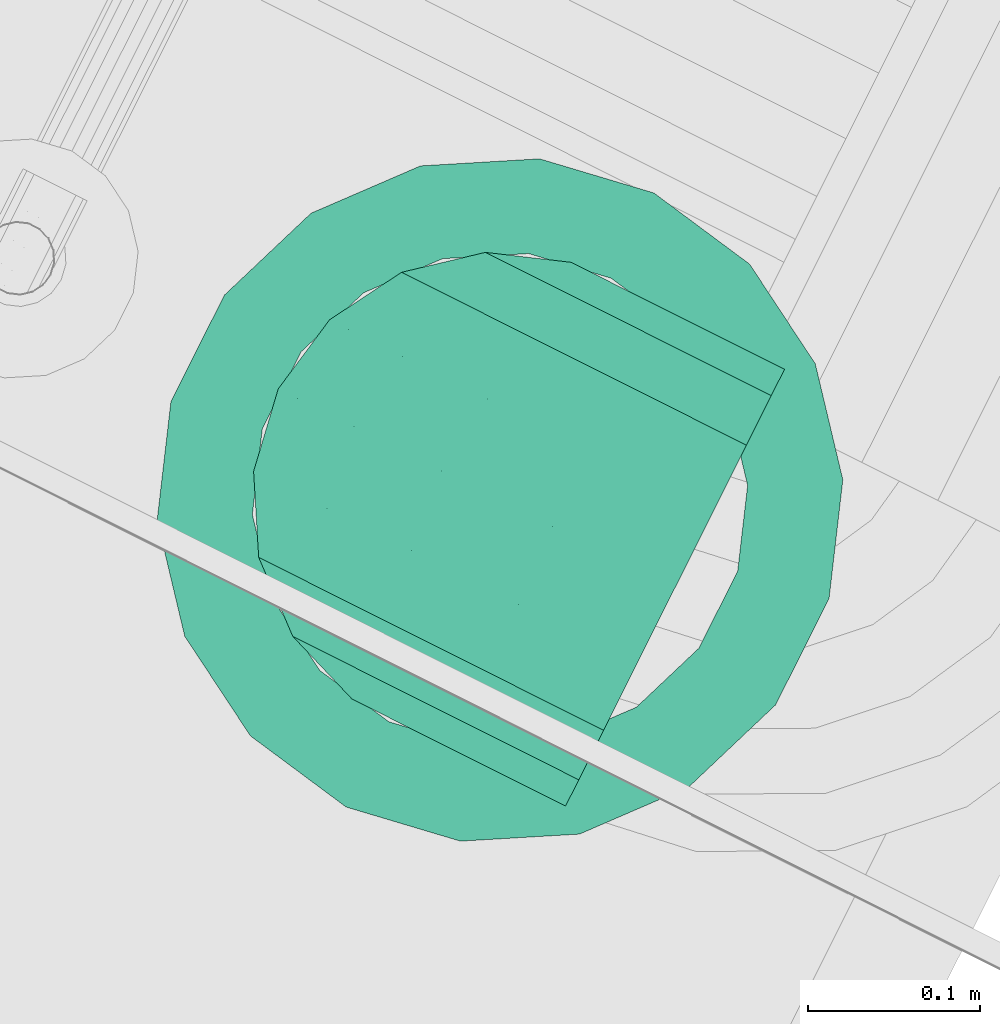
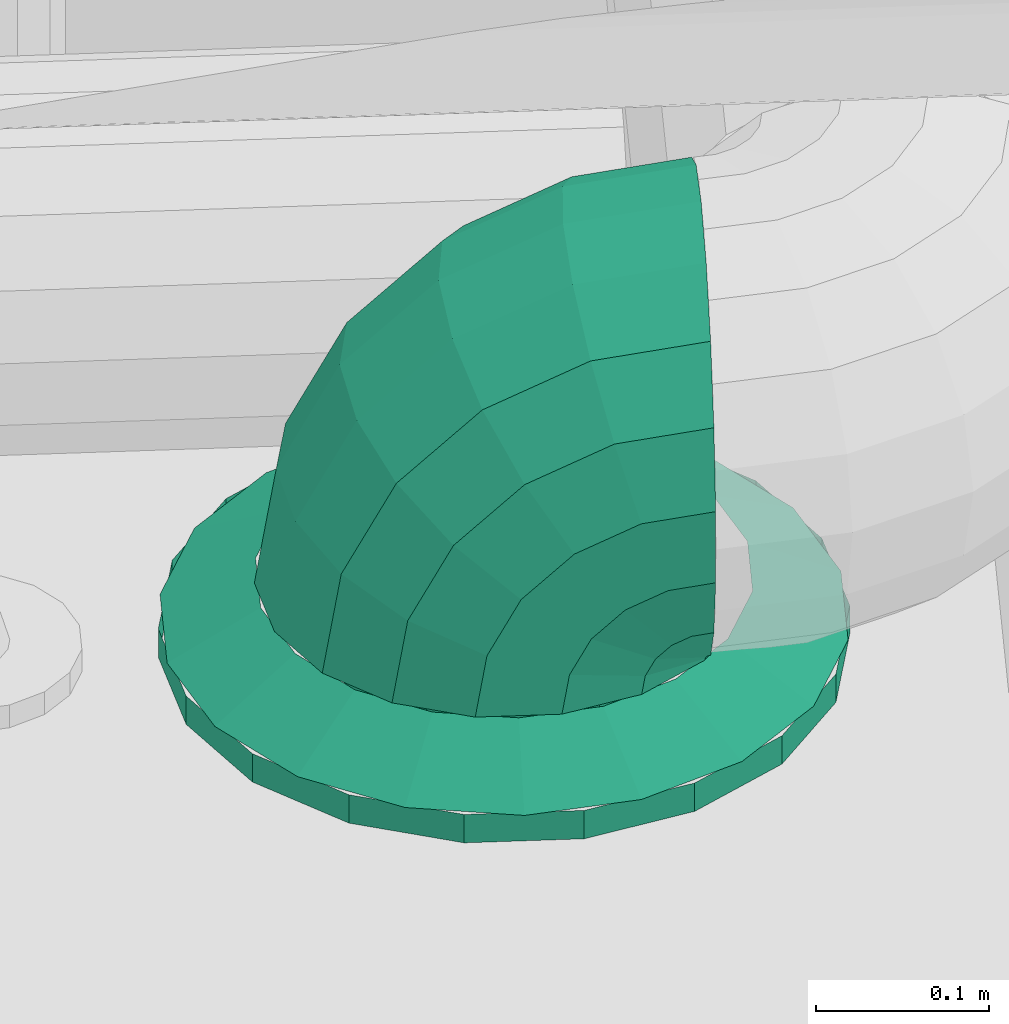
# One storey, part 92 of 206: 1 flow fitting, 1 flow segment.
"""IFC2X3 building model written with IfcOpenShell, lengths in metres."""

from ifc_helpers import new_model, si_unit, derived_unit, direction, frame, origin, place, context, subcontext, project, spatial, face_set, surface_model, source, transform, mapped, material, type_object, type_shapes, element, save


model = new_model("IFC2X3")

# Units and contexts
model_context = context("Model", 3, precision=5.2338327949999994e-05, world=origin(), true_north=direction((0.0, 1.0)))
body_context = subcontext(model_context, "Body", "Model", "MODEL_VIEW")
ifc_project = project(units=[si_unit("LENGTHUNIT", "METRE"), si_unit("AREAUNIT", "SQUARE_METRE"), si_unit("VOLUMEUNIT", "CUBIC_METRE"), si_unit("MASSUNIT", "GRAM", prefix="KILO"), si_unit("PLANEANGLEUNIT", "RADIAN"), derived_unit("THERMALTRANSMITTANCEUNIT", [(si_unit("MASSUNIT", "GRAM", prefix="KILO"), 1), (si_unit("THERMODYNAMICTEMPERATUREUNIT", "KELVIN"), -1), (si_unit("TIMEUNIT", "SECOND"), -3)])], contexts=[model_context])

# Site, building, storey
site_placement = place(None, frame((0.0, 0.0, 0.0), z_axis=(0.0, 0.0, 1.0), x_axis=(0.8939966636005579, -0.4480736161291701, 0.0)))
site = spatial("IfcSite", under=ifc_project, at=site_placement, Name="Default", CompositionType="ELEMENT")
building_placement = place(site_placement, origin())
building = spatial("IfcBuilding", under=site, at=building_placement, CompositionType="ELEMENT")
storey_placement = place(building_placement, origin())
storey = spatial("IfcBuildingStorey", under=building, at=storey_placement, Name="Erdgeschoss", CompositionType="ELEMENT", Elevation=0.0)

# Flow fitting
ifc_material = material(Name="IfcSurfaceStyle #9317")
distribution_element_type_1 = type_object("IfcDistributionElementType", Name="Flansch 293605:Flansch 293605", material=ifc_material)
shared_shape_1 = source(origin(), body_context, "Body", "SurfaceModel", [
    surface_model("IfcFaceBasedSurfaceModel", [(31.011872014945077, 8.473570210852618, 2.15), (31.005841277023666, 8.507772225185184, 2.15), (31.005841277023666, 8.507772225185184, 2.170000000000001), (31.011872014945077, 8.473570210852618, 2.1699999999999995), (30.988476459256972, 8.537848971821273, 2.15), (30.988476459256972, 8.537848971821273, 2.170000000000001), (30.961872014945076, 8.560172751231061, 2.15), (30.961872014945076, 8.560172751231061, 2.170000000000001), (30.929236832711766, 8.572050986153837, 2.15), (30.929236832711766, 8.572050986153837, 2.170000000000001), (30.89450719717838, 8.572050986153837, 2.15), (30.89450719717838, 8.572050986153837, 2.170000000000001), (30.86187201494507, 8.56017275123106, 2.15), (30.86187201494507, 8.56017275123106, 2.170000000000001), (30.835267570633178, 8.53784897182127, 2.15), (30.835267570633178, 8.53784897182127, 2.170000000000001), (30.817902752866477, 8.507772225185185, 2.15), (30.817902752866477, 8.507772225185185, 2.170000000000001), (30.811872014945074, 8.473570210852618, 2.15), (30.811872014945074, 8.473570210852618, 2.170000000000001), (30.81790275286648, 8.43936819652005, 2.15), (30.81790275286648, 8.43936819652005, 2.170000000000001), (30.835267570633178, 8.409291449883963, 2.15), (30.835267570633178, 8.409291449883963, 2.170000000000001), (30.86187201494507, 8.386967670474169, 2.15), (30.86187201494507, 8.386967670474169, 2.170000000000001), (30.89450719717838, 8.375089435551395, 2.15), (30.89450719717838, 8.375089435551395, 2.170000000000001), (30.92923683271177, 8.375089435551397, 2.15), (30.92923683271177, 8.375089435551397, 2.170000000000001), (30.96187201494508, 8.386967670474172, 2.15), (30.96187201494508, 8.386967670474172, 2.170000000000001), (30.98847645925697, 8.409291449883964, 2.15), (30.98847645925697, 8.409291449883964, 2.170000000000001), (31.005841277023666, 8.43936819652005, 2.15), (31.005841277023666, 8.43936819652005, 2.170000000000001), (30.91187201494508, 8.473570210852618, 2.170000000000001), (30.911872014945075, 8.421070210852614, 2.1700000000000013), (30.92982807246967, 8.424236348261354, 2.1700000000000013), (30.927074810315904, 8.431800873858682, 2.2000000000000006), (30.91187201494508, 8.429120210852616, 2.2), (30.945618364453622, 8.433352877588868, 2.170000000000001), (30.940443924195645, 8.439519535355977, 2.2000000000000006), (30.95733834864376, 8.447320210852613, 2.1700000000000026), (30.950366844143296, 8.451345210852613, 2.200000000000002), (30.963574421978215, 8.464453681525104, 2.170000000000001), (30.95564671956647, 8.465851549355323, 2.2000000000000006), (30.963574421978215, 8.482686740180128, 2.1700000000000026), (30.95564671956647, 8.481288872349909, 2.200000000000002), (30.957338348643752, 8.499820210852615, 2.1700000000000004), (30.95036684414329, 8.495795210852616, 2.1999999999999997), (30.945618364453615, 8.513787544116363, 2.1700000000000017), (30.94044392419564, 8.507620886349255, 2.200000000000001), (30.92982807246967, 8.522904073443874, 2.1700000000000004), (30.927074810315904, 8.515339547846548, 2.1999999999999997), (30.911872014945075, 8.526070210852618, 2.1700000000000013), (30.91187201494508, 8.518020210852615, 2.2000000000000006), (30.893915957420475, 8.522904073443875, 2.170000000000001), (30.896669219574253, 8.51533954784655, 2.2000000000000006), (30.878125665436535, 8.513787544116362, 2.170000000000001), (30.883300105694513, 8.507620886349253, 2.2), (30.866405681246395, 8.499820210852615, 2.170000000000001), (30.873377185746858, 8.495795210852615, 2.2), (30.86016960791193, 8.482686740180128, 2.170000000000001), (30.86809731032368, 8.481288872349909, 2.2000000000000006), (30.86016960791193, 8.464453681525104, 2.170000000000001), (30.86809731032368, 8.46585154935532, 2.2000000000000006), (30.866405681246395, 8.447320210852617, 2.170000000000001), (30.873377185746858, 8.451345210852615, 2.2000000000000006), (30.878125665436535, 8.433352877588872, 2.170000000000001), (30.883300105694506, 8.439519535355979, 2.2), (30.89391595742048, 8.424236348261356, 2.170000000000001), (30.896669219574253, 8.431800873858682, 2.2000000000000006), (31.11187201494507, 8.473570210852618, 2.15), (31.099810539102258, 8.541974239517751, 2.15), (31.099810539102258, 8.541974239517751, 2.170000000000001), (31.11187201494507, 8.473570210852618, 2.170000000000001), (31.06508090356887, 8.602127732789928, 2.15), (31.06508090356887, 8.602127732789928, 2.170000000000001), (31.011872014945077, 8.646775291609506, 2.15), (31.011872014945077, 8.646775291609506, 2.170000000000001), (30.946601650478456, 8.67053176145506, 2.15), (30.946601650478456, 8.67053176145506, 2.170000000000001), (30.877142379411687, 8.67053176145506, 2.15), (30.877142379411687, 8.67053176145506, 2.170000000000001), (30.81187201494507, 8.646775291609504, 2.15), (30.81187201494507, 8.646775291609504, 2.170000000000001), (30.758663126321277, 8.602127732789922, 2.15), (30.758663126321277, 8.602127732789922, 2.170000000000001), (30.72393349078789, 8.541974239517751, 2.15), (30.72393349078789, 8.541974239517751, 2.170000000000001), (30.711872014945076, 8.473570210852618, 2.15), (30.711872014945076, 8.473570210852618, 2.170000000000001), (30.72393349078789, 8.40516618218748, 2.15), (30.72393349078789, 8.40516618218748, 2.170000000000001), (30.75866312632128, 8.345012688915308, 2.15), (30.75866312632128, 8.345012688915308, 2.170000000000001), (30.811872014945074, 8.300365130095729, 2.15), (30.811872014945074, 8.300365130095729, 2.170000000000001), (30.877142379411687, 8.276608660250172, 2.15), (30.877142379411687, 8.276608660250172, 2.170000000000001), (30.94660165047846, 8.276608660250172, 2.15), (30.94660165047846, 8.276608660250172, 2.170000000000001), (31.011872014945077, 8.300365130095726, 2.15), (31.011872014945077, 8.300365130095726, 2.170000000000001), (31.06508090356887, 8.345012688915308, 2.15), (31.06508090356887, 8.345012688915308, 2.170000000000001), (31.099810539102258, 8.40516618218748, 2.15), (31.099810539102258, 8.40516618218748, 2.170000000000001), (30.91187201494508, 8.273570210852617, 2.1700000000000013), (30.980276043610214, 8.285631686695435, 2.1700000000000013), (30.96127682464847, 8.337831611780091, 2.2000000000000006), (30.911872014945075, 8.329120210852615, 2.2), (31.040429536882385, 8.320361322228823, 2.170000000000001), (31.004722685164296, 8.36291509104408, 2.2), (31.085077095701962, 8.373570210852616, 2.1700000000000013), (31.03696938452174, 8.401345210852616, 2.2000000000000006), (31.108833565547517, 8.438840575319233, 2.170000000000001), (31.05412749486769, 8.448486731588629, 2.2000000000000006), (31.10883356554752, 8.508299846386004, 2.1699999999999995), (31.054127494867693, 8.498653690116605, 2.1999999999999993), (31.08507709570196, 8.573570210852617, 2.17), (31.036969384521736, 8.545795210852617, 2.1999999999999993), (31.040429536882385, 8.626779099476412, 2.1700000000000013), (31.004722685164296, 8.584225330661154, 2.2000000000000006), (30.980276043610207, 8.6615087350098, 2.1700000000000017), (30.96127682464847, 8.60930880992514, 2.200000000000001), (30.91187201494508, 8.673570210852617, 2.170000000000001), (30.911872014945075, 8.618020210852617, 2.2000000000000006), (30.843467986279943, 8.661508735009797, 2.1700000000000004), (30.86246720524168, 8.609308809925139, 2.1999999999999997), (30.78331449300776, 8.62677909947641, 2.1700000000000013), (30.81902134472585, 8.584225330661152, 2.2000000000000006), (30.73866693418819, 8.573570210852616, 2.1699999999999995), (30.78677464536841, 8.545795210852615, 2.199999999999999), (30.71491046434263, 8.508299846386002, 2.170000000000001), (30.76961653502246, 8.498653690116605, 2.2), (30.71491046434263, 8.438840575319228, 2.170000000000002), (30.76961653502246, 8.448486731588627, 2.2000000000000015), (30.73866693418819, 8.373570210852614, 2.170000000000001), (30.78677464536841, 8.401345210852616, 2.2), (30.78331449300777, 8.320361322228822, 2.1699999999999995), (30.81902134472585, 8.36291509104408, 2.1999999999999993), (30.843467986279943, 8.285631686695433, 2.1700000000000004), (30.86246720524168, 8.337831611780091, 2.1999999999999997)], [face_set([[[0, 1, 2, 3]], [[1, 4, 5, 2]], [[4, 6, 7, 5]], [[6, 8, 9, 7]], [[8, 10, 11, 9]], [[10, 12, 13, 11]], [[12, 14, 15, 13]], [[14, 16, 17, 15]], [[16, 18, 19, 17]], [[18, 20, 21, 19]], [[20, 22, 23, 21]], [[22, 24, 25, 23]], [[24, 26, 27, 25]], [[26, 28, 29, 27]], [[28, 30, 31, 29]], [[30, 32, 33, 31]], [[32, 34, 35, 33]], [[34, 0, 3, 35]], [[36, 35, 3]], [[36, 33, 35]], [[36, 31, 33]], [[36, 29, 31]], [[36, 27, 29]], [[36, 25, 27]], [[36, 23, 25]], [[36, 21, 23]], [[36, 19, 21]], [[36, 17, 19]], [[36, 15, 17]], [[36, 13, 15]], [[36, 11, 13]], [[36, 9, 11]], [[36, 7, 9]], [[36, 5, 7]], [[36, 2, 5]], [[36, 3, 2]], [[37, 38, 39, 40]], [[38, 41, 42, 39]], [[41, 43, 44, 42]], [[43, 45, 46, 44]], [[45, 47, 48, 46]], [[47, 49, 50, 48]], [[49, 51, 52, 50]], [[51, 53, 54, 52]], [[53, 55, 56, 54]], [[55, 57, 58, 56]], [[57, 59, 60, 58]], [[59, 61, 62, 60]], [[61, 63, 64, 62]], [[63, 65, 66, 64]], [[65, 67, 68, 66]], [[67, 69, 70, 68]], [[69, 71, 72, 70]], [[71, 37, 40, 72]], [[73, 74, 75, 76]], [[74, 77, 78, 75]], [[77, 79, 80, 78]], [[79, 81, 82, 80]], [[81, 83, 84, 82]], [[83, 85, 86, 84]], [[85, 87, 88, 86]], [[87, 89, 90, 88]], [[89, 91, 92, 90]], [[91, 93, 94, 92]], [[93, 95, 96, 94]], [[95, 97, 98, 96]], [[97, 99, 100, 98]], [[99, 101, 102, 100]], [[101, 103, 104, 102]], [[103, 105, 106, 104]], [[105, 107, 108, 106]], [[107, 73, 76, 108]], [[109, 110, 111, 112]], [[110, 113, 114, 111]], [[113, 115, 116, 114]], [[115, 117, 118, 116]], [[117, 119, 120, 118]], [[119, 121, 122, 120]], [[121, 123, 124, 122]], [[123, 125, 126, 124]], [[125, 127, 128, 126]], [[127, 129, 130, 128]], [[129, 131, 132, 130]], [[131, 133, 134, 132]], [[133, 135, 136, 134]], [[135, 137, 138, 136]], [[137, 139, 140, 138]], [[139, 141, 142, 140]], [[141, 143, 144, 142]], [[143, 109, 112, 144]]])]),
])
type_shapes(distribution_element_type_1, [shared_shape_1])
flow_fitting_placement = place(storey_placement, origin())
element("IfcFlowFitting", 1, at=flow_fitting_placement, inside=storey, type_object=distribution_element_type_1, material=ifc_material, Name="Flansch", ObjectType="Flansch", context=body_context, shape_type="MappedRepresentation", body=[
    mapped(shared_shape_1, transform((0.0, 0.0, 0.0), scale=1.0)),
])

# Flow segment
distribution_element_type_2 = type_object("IfcDistributionElementType", Name="Rohrbogen 327528:Rohrbogen 327528", material=ifc_material)
shared_shape_2 = source(origin(), body_context, "Body", "SurfaceModel", [
    surface_model("IfcFaceBasedSurfaceModel", [(30.976909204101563, 8.47356999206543, 2.350694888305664), (31.025871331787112, 8.47356999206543, 2.3584499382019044), (30.977737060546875, 8.488773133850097, 2.34814547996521), (31.025871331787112, 8.488773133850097, 2.3557692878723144), (30.932737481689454, 8.47356999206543, 2.3281887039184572), (30.934314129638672, 8.488773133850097, 2.326020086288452), (30.89768380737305, 8.47356999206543, 2.2931345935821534), (30.89985111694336, 8.488773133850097, 2.2915589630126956), (30.875178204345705, 8.47356999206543, 2.248963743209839), (30.87772688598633, 8.488773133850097, 2.2481353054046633), (30.867422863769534, 8.47356999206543, 2.200000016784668), (30.870101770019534, 8.488773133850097, 2.200000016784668), (31.025871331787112, 8.502142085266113, 2.3480507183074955), (30.98012296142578, 8.502142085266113, 2.340804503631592), (30.93885106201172, 8.502142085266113, 2.3197755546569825), (30.906097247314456, 8.502142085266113, 2.2870220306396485), (30.885068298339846, 8.502142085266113, 2.245750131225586), (30.877822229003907, 8.502142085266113, 2.200000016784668), (31.025871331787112, 8.512065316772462, 2.33622498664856), (30.983776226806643, 8.512065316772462, 2.3295576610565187), (30.94580180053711, 8.512065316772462, 2.3102084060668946), (30.91566410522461, 8.512065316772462, 2.2800710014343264), (30.89631412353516, 8.512065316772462, 2.242095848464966), (30.889647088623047, 8.512065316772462, 2.200000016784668), (30.988259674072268, 8.517344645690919, 2.3157612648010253), (31.025871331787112, 8.517344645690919, 2.321718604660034), (30.954326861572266, 8.517344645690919, 2.298472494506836), (30.927400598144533, 8.517344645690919, 2.271544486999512), (30.91011095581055, 8.517344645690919, 2.23761312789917), (30.904153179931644, 8.517344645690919, 2.200000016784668), (30.993029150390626, 8.517344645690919, 2.301079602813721), (31.025871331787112, 8.517344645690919, 2.30628132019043), (30.963400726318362, 8.517344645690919, 2.2859834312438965), (30.939888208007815, 8.517344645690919, 2.262470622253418), (30.924791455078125, 8.517344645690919, 2.232842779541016), (30.91959177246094, 8.517344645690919, 2.200000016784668), (31.025871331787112, 8.512065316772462, 2.2917749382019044), (30.99751259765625, 8.512065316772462, 2.287283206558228), (30.97192811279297, 8.512065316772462, 2.274247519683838), (30.951624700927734, 8.512065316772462, 2.2539439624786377), (30.938588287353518, 8.512065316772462, 2.2283600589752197), (30.934097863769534, 8.512065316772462, 2.200000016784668), (31.025871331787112, 8.502142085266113, 2.2799493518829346), (31.001165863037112, 8.502142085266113, 2.2760363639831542), (30.97887885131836, 8.502142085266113, 2.26468037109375), (30.961191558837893, 8.502142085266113, 2.2469930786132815), (30.94983643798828, 8.502142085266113, 2.224705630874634), (30.945922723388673, 8.502142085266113, 2.200000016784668), (31.00355176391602, 8.488773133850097, 2.268695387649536), (31.025871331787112, 8.488773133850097, 2.2722306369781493), (30.98341578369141, 8.488773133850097, 2.2584358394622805), (30.967435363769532, 8.488773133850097, 2.2424561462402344), (30.957175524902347, 8.488773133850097, 2.222320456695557), (30.953640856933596, 8.488773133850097, 2.200000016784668), (31.00437962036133, 8.47356999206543, 2.266145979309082), (31.025871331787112, 8.47356999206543, 2.26954998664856), (30.984992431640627, 8.47356999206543, 2.2562670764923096), (30.9696049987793, 8.47356999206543, 2.2408805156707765), (30.959726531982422, 8.47356999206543, 2.2214921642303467), (30.956322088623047, 8.47356999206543, 2.200000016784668), (31.025871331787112, 8.458367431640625, 2.2722306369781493), (31.00355176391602, 8.458367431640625, 2.268695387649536), (30.98341578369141, 8.458367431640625, 2.2584358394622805), (30.967435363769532, 8.458367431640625, 2.2424561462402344), (30.957175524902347, 8.458367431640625, 2.222320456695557), (30.953640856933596, 8.458367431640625, 2.200000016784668), (31.025871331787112, 8.44499848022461, 2.2799493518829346), (31.001165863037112, 8.44499848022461, 2.2760363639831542), (30.97887885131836, 8.44499848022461, 2.26468037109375), (30.961191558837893, 8.44499848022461, 2.2469930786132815), (30.94983643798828, 8.44499848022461, 2.224705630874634), (30.945922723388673, 8.44499848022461, 2.200000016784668), (30.99751259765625, 8.435075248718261, 2.287283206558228), (31.025871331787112, 8.435075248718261, 2.2917749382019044), (30.97192811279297, 8.435075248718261, 2.274247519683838), (30.951624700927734, 8.435075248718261, 2.2539439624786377), (30.938588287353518, 8.435075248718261, 2.2283600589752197), (30.934097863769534, 8.435075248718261, 2.200000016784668), (30.993029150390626, 8.429795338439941, 2.301079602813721), (31.025871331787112, 8.429795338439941, 2.30628132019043), (30.963400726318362, 8.429795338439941, 2.2859834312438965), (30.939888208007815, 8.429795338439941, 2.262470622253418), (30.924791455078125, 8.429795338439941, 2.232842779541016), (30.91959177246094, 8.429795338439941, 2.200000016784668), (31.025871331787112, 8.429795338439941, 2.321718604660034), (30.988259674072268, 8.429795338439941, 2.3157612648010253), (30.954326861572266, 8.429795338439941, 2.298472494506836), (30.927400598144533, 8.429795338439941, 2.271544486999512), (30.91011095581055, 8.429795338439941, 2.23761312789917), (30.904153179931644, 8.429795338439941, 2.200000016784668), (31.025871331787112, 8.435075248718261, 2.33622498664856), (30.983776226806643, 8.435075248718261, 2.3295576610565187), (30.94580180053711, 8.435075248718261, 2.3102084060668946), (30.91566410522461, 8.435075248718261, 2.2800710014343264), (30.89631412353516, 8.435075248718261, 2.242095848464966), (30.889647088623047, 8.435075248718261, 2.200000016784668), (31.025871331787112, 8.44499848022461, 2.3480507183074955), (30.98012296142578, 8.44499848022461, 2.340804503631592), (30.93885106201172, 8.44499848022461, 2.3197755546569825), (30.906097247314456, 8.44499848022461, 2.2870220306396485), (30.885068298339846, 8.44499848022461, 2.245750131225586), (30.877822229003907, 8.44499848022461, 2.200000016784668), (30.977737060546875, 8.458367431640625, 2.34814547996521), (31.025871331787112, 8.458367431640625, 2.3557692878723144), (30.934314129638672, 8.458367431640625, 2.326020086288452), (30.89985111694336, 8.458367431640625, 2.2915589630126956), (30.87772688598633, 8.458367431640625, 2.2481353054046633), (30.870101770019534, 8.458367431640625, 2.200000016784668), (30.946006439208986, 8.47356999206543, 2.445800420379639), (31.025871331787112, 8.47356999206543, 2.458449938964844), (31.025871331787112, 8.522975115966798, 2.449738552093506), (30.948699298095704, 8.522975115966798, 2.437515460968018), (30.873959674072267, 8.47356999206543, 2.409090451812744), (30.87908029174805, 8.522975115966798, 2.4020427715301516), (30.81678176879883, 8.47356999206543, 2.35191312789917), (30.82383017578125, 8.522975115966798, 2.3467926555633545), (30.780072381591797, 8.47356999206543, 2.2798654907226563), (30.78835559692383, 8.522975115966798, 2.2771735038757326), (30.7674219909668, 8.47356999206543, 2.200000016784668), (30.776133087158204, 8.522975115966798, 2.200000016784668), (30.956449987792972, 8.566420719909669, 2.4136596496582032), (31.025871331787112, 8.566420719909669, 2.4246550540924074), (30.893823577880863, 8.566420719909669, 2.381749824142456), (30.844121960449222, 8.566420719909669, 2.3320489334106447), (30.81221228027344, 8.566420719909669, 2.2694222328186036), (30.801217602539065, 8.566420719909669, 2.200000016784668), (31.025871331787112, 8.598667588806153, 2.3862249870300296), (30.96832600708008, 8.598667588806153, 2.377110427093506), (30.916410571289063, 8.598667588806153, 2.350659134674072), (30.875213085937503, 8.598667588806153, 2.3094603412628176), (30.848761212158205, 8.598667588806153, 2.257546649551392), (30.839647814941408, 8.598667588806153, 2.200000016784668), (31.025871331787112, 8.615825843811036, 2.339083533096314), (30.982892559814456, 8.615825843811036, 2.3322762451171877), (30.944120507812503, 8.615825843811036, 2.3125209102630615), (30.91335029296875, 8.615825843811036, 2.281751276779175), (30.893595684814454, 8.615825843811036, 2.242979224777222), (30.88678912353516, 8.615825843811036, 2.200000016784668), (30.998396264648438, 8.615825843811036, 2.284564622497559), (31.025871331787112, 8.615825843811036, 2.2889165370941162), (30.973607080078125, 8.615825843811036, 2.271935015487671), (30.95393618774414, 8.615825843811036, 2.252263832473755), (30.94130672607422, 8.615825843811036, 2.227476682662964), (30.936955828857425, 8.615825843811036, 2.200000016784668), (31.025871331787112, 8.598667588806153, 2.2417749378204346), (31.012962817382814, 8.598667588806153, 2.23973044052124), (31.001317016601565, 8.598667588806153, 2.2337966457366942), (30.992075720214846, 8.598667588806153, 2.2245547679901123), (30.986141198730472, 8.598667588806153, 2.2129091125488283), (30.984097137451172, 8.598667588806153, 2.200000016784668), (31.025871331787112, 8.566420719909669, 2.2033448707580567), (31.02483883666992, 8.566420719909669, 2.203181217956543), (31.02390633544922, 8.566420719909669, 2.2027061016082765), (31.023166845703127, 8.566420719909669, 2.2019660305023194), (31.022690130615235, 8.566420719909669, 2.201033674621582), (31.02252734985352, 8.566420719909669, 2.200000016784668), (31.025871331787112, 8.560626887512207, 2.199999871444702), (31.02497138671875, 8.560874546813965, 2.199999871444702), (31.025871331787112, 8.386513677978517, 2.199999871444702), (31.02497138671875, 8.386266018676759, 2.199999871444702), (31.02483883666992, 8.380719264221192, 2.203181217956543), (31.025871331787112, 8.380719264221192, 2.2033448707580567), (31.02390633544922, 8.380719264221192, 2.2027061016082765), (31.023166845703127, 8.380719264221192, 2.2019660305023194), (31.022690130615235, 8.380719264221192, 2.201033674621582), (31.02252734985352, 8.380719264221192, 2.200000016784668), (31.012962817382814, 8.34847297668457, 2.23973044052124), (31.025871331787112, 8.34847297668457, 2.2417749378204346), (31.001317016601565, 8.34847297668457, 2.2337966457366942), (30.992075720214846, 8.34847297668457, 2.2245547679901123), (30.986141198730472, 8.34847297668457, 2.2129091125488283), (30.984097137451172, 8.34847297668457, 2.200000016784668), (30.998396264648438, 8.331314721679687, 2.284564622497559), (31.025871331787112, 8.331314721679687, 2.2889165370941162), (30.973607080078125, 8.331314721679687, 2.271935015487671), (30.95393618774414, 8.331314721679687, 2.252263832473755), (30.94130672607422, 8.331314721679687, 2.227476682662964), (30.936955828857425, 8.331314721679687, 2.200000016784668), (31.025871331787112, 8.331314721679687, 2.339083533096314), (30.982892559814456, 8.331314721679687, 2.3322762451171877), (30.944120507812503, 8.331314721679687, 2.3125209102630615), (30.91335029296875, 8.331314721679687, 2.281751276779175), (30.893595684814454, 8.331314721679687, 2.242979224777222), (30.88678912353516, 8.331314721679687, 2.200000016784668), (30.96832600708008, 8.34847297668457, 2.377110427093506), (31.025871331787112, 8.34847297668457, 2.3862249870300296), (30.916410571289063, 8.34847297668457, 2.350659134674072), (30.875213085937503, 8.34847297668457, 2.3094603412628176), (30.848761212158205, 8.34847297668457, 2.257546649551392), (30.839647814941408, 8.34847297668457, 2.200000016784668), (30.956449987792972, 8.380719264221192, 2.4136596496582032), (31.025871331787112, 8.380719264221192, 2.4246550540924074), (30.893823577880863, 8.380719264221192, 2.381749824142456), (30.844121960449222, 8.380719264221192, 2.3320489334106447), (30.81221228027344, 8.380719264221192, 2.2694222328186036), (30.801217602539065, 8.380719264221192, 2.200000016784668), (30.948699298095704, 8.424165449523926, 2.437515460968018), (31.025871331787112, 8.424165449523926, 2.449738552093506), (30.87908029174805, 8.424165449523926, 2.4020427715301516), (30.82383017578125, 8.424165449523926, 2.3467926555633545), (30.78835559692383, 8.424165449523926, 2.2771735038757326), (30.776133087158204, 8.424165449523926, 2.200000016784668)], [face_set([[[0, 1, 2]], [[3, 2, 1]], [[4, 0, 2]], [[2, 5, 4]], [[6, 4, 5]], [[5, 7, 6]], [[8, 6, 7]], [[7, 9, 8]], [[10, 8, 9]], [[9, 11, 10]], [[2, 3, 12]], [[12, 13, 2]], [[5, 2, 13]], [[13, 14, 5]], [[7, 5, 15]], [[14, 15, 5]], [[9, 7, 16]], [[15, 16, 7]], [[11, 9, 17]], [[16, 17, 9]], [[13, 12, 18]], [[18, 19, 13]], [[14, 13, 19]], [[19, 20, 14]], [[15, 14, 20]], [[20, 21, 15]], [[16, 15, 21]], [[21, 22, 16]], [[17, 16, 22]], [[22, 23, 17]], [[19, 18, 24]], [[25, 24, 18]], [[20, 19, 26]], [[24, 26, 19]], [[21, 20, 26]], [[26, 27, 21]], [[22, 21, 28]], [[27, 28, 21]], [[23, 22, 28]], [[28, 29, 23]], [[24, 25, 30]], [[31, 30, 25]], [[26, 24, 30]], [[30, 32, 26]], [[27, 26, 33]], [[32, 33, 26]], [[28, 27, 34]], [[33, 34, 27]], [[29, 28, 34]], [[34, 35, 29]], [[30, 31, 36]], [[36, 37, 30]], [[32, 30, 38]], [[37, 38, 30]], [[33, 32, 39]], [[38, 39, 32]], [[34, 33, 40]], [[39, 40, 33]], [[35, 34, 41]], [[40, 41, 34]], [[37, 36, 42]], [[42, 43, 37]], [[38, 37, 43]], [[43, 44, 38]], [[39, 38, 44]], [[44, 45, 39]], [[40, 39, 46]], [[45, 46, 39]], [[41, 40, 46]], [[46, 47, 41]], [[43, 42, 48]], [[49, 48, 42]], [[44, 43, 50]], [[48, 50, 43]], [[45, 44, 51]], [[50, 51, 44]], [[46, 45, 52]], [[51, 52, 45]], [[47, 46, 52]], [[52, 53, 47]], [[48, 49, 54]], [[55, 54, 49]], [[50, 48, 54]], [[54, 56, 50]], [[51, 50, 56]], [[56, 57, 51]], [[52, 51, 58]], [[57, 58, 51]], [[53, 52, 58]], [[58, 59, 53]], [[54, 55, 60]], [[60, 61, 54]], [[56, 54, 62]], [[61, 62, 54]], [[57, 56, 63]], [[62, 63, 56]], [[58, 57, 64]], [[63, 64, 57]], [[59, 58, 64]], [[64, 65, 59]], [[61, 60, 66]], [[66, 67, 61]], [[62, 61, 67]], [[67, 68, 62]], [[63, 62, 69]], [[68, 69, 62]], [[64, 63, 69]], [[69, 70, 64]], [[65, 64, 71]], [[70, 71, 64]], [[67, 66, 72]], [[73, 72, 66]], [[68, 67, 74]], [[72, 74, 67]], [[69, 68, 75]], [[74, 75, 68]], [[70, 69, 75]], [[75, 76, 70]], [[71, 70, 77]], [[76, 77, 70]], [[72, 73, 78]], [[79, 78, 73]], [[74, 72, 78]], [[78, 80, 74]], [[75, 74, 80]], [[80, 81, 75]], [[76, 75, 81]], [[81, 82, 76]], [[77, 76, 82]], [[82, 83, 77]], [[78, 79, 84]], [[84, 85, 78]], [[80, 78, 86]], [[85, 86, 78]], [[81, 80, 86]], [[86, 87, 81]], [[82, 81, 87]], [[87, 88, 82]], [[83, 82, 89]], [[88, 89, 82]], [[85, 84, 90]], [[90, 91, 85]], [[86, 85, 91]], [[91, 92, 86]], [[87, 86, 93]], [[92, 93, 86]], [[88, 87, 93]], [[93, 94, 88]], [[89, 88, 95]], [[94, 95, 88]], [[91, 90, 96]], [[96, 97, 91]], [[92, 91, 97]], [[97, 98, 92]], [[93, 92, 98]], [[98, 99, 93]], [[94, 93, 100]], [[99, 100, 93]], [[95, 94, 101]], [[100, 101, 94]], [[97, 96, 102]], [[103, 102, 96]], [[98, 97, 104]], [[102, 104, 97]], [[99, 98, 104]], [[104, 105, 99]], [[100, 99, 105]], [[105, 106, 100]], [[101, 100, 106]], [[106, 107, 101]], [[102, 103, 1]], [[1, 0, 102]], [[104, 102, 4]], [[0, 4, 102]], [[105, 104, 6]], [[4, 6, 104]], [[106, 105, 8]], [[6, 8, 105]], [[107, 106, 10]], [[8, 10, 106]], [[108, 109, 110]], [[110, 111, 108]], [[112, 108, 113]], [[111, 113, 108]], [[114, 112, 115]], [[113, 115, 112]], [[116, 114, 117]], [[115, 117, 114]], [[118, 116, 119]], [[117, 119, 116]], [[111, 110, 120]], [[121, 120, 110]], [[113, 111, 120]], [[120, 122, 113]], [[115, 113, 122]], [[122, 123, 115]], [[117, 115, 123]], [[123, 124, 117]], [[119, 117, 124]], [[124, 125, 119]], [[120, 121, 126]], [[126, 127, 120]], [[122, 120, 128]], [[127, 128, 120]], [[123, 122, 129]], [[128, 129, 122]], [[124, 123, 130]], [[129, 130, 123]], [[125, 124, 131]], [[130, 131, 124]], [[127, 126, 132]], [[132, 133, 127]], [[128, 127, 133]], [[133, 134, 128]], [[129, 128, 135]], [[134, 135, 128]], [[130, 129, 136]], [[135, 136, 129]], [[131, 130, 136]], [[136, 137, 131]], [[133, 132, 138]], [[139, 138, 132]], [[134, 133, 138]], [[138, 140, 134]], [[135, 134, 141]], [[140, 141, 134]], [[136, 135, 142]], [[141, 142, 135]], [[137, 136, 142]], [[142, 143, 137]], [[138, 139, 144]], [[144, 145, 138]], [[140, 138, 145]], [[145, 146, 140]], [[141, 140, 147]], [[146, 147, 140]], [[142, 141, 148]], [[147, 148, 141]], [[143, 142, 148]], [[148, 149, 143]], [[145, 144, 150]], [[150, 151, 145]], [[146, 145, 151]], [[151, 152, 146]], [[147, 146, 153]], [[152, 153, 146]], [[148, 147, 154]], [[153, 154, 147]], [[149, 148, 154]], [[154, 155, 149]], [[156, 151, 157]], [[156, 157, 150]], [[151, 150, 157]], [[151, 156, 152]], [[153, 152, 156]], [[154, 153, 156]], [[155, 154, 156]], [[158, 159, 160]], [[161, 160, 159]], [[159, 158, 161]], [[160, 162, 158]], [[158, 162, 163]], [[164, 158, 163]], [[165, 158, 164]], [[160, 161, 166]], [[167, 166, 161]], [[162, 160, 168]], [[166, 168, 160]], [[163, 162, 168]], [[168, 169, 163]], [[164, 163, 169]], [[169, 170, 164]], [[165, 164, 171]], [[170, 171, 164]], [[166, 167, 172]], [[173, 172, 167]], [[168, 166, 172]], [[172, 174, 168]], [[169, 168, 174]], [[174, 175, 169]], [[170, 169, 175]], [[175, 176, 170]], [[171, 170, 177]], [[176, 177, 170]], [[172, 173, 178]], [[178, 179, 172]], [[174, 172, 180]], [[179, 180, 172]], [[175, 174, 180]], [[180, 181, 175]], [[176, 175, 181]], [[181, 182, 176]], [[177, 176, 183]], [[182, 183, 176]], [[179, 178, 184]], [[185, 184, 178]], [[180, 179, 186]], [[184, 186, 179]], [[181, 180, 186]], [[186, 187, 181]], [[182, 181, 187]], [[187, 188, 182]], [[183, 182, 189]], [[188, 189, 182]], [[184, 185, 190]], [[191, 190, 185]], [[186, 184, 190]], [[190, 192, 186]], [[187, 186, 192]], [[192, 193, 187]], [[188, 187, 193]], [[193, 194, 188]], [[189, 188, 194]], [[194, 195, 189]], [[190, 191, 196]], [[197, 196, 191]], [[192, 190, 198]], [[196, 198, 190]], [[193, 192, 199]], [[198, 199, 192]], [[194, 193, 200]], [[199, 200, 193]], [[195, 194, 201]], [[200, 201, 194]], [[196, 197, 108]], [[109, 108, 197]], [[198, 196, 108]], [[108, 112, 198]], [[199, 198, 112]], [[112, 114, 199]], [[200, 199, 114]], [[114, 116, 200]], [[201, 200, 116]], [[116, 118, 201]]])]),
])
type_shapes(distribution_element_type_2, [shared_shape_2])
flow_segment_placement = place(storey_placement, origin())
element("IfcFlowSegment", 2, at=flow_segment_placement, inside=storey, type_object=distribution_element_type_2, material=ifc_material, Name="Rohrbogen", ObjectType="Rohrbogen", context=body_context, shape_type="MappedRepresentation", body=[
    mapped(shared_shape_2, transform((0.0, 0.0, 0.0), scale=1.0)),
])

save(model, "model.ifc")
